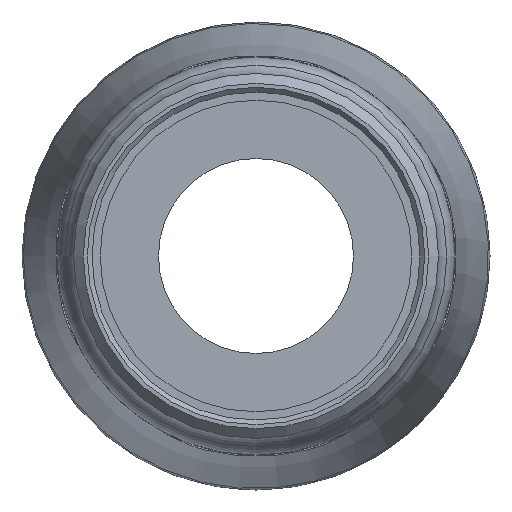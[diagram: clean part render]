
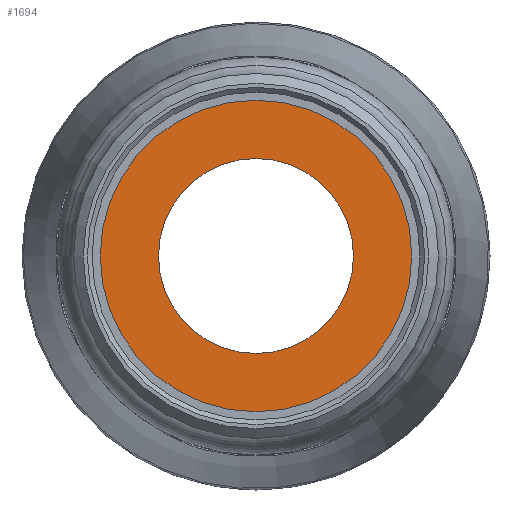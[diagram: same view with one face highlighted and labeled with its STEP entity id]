
A CAD part, left-side view. The second image highlights one B-rep face of the part: STEP entity #1694.
In plain terms, the highlighted planar face has unit normal (-1, 0, 0).
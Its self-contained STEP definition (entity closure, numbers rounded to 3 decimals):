
#40=FACE_BOUND('',#487,.T.);
#262=PLANE('',#1892);
#365=FACE_OUTER_BOUND('',#486,.T.);
#486=EDGE_LOOP('',(#1552));
#487=EDGE_LOOP('',(#1553));
#583=CIRCLE('',#1891,13.333);
#584=CIRCLE('',#1893,21.301);
#817=VERTEX_POINT('',#3823);
#818=VERTEX_POINT('',#3826);
#1063=EDGE_CURVE('',#817,#817,#583,.T.);
#1064=EDGE_CURVE('',#818,#818,#584,.T.);
#1552=ORIENTED_EDGE('',*,*,#1064,.F.);
#1553=ORIENTED_EDGE('',*,*,#1063,.T.);
#1694=ADVANCED_FACE('',(#365,#40),#262,.T.);
#1891=AXIS2_PLACEMENT_3D('',#3824,#2363,#2364);
#1892=AXIS2_PLACEMENT_3D('',#3825,#2365,#2366);
#1893=AXIS2_PLACEMENT_3D('',#3827,#2367,#2368);
#2363=DIRECTION('center_axis',(1.,0.,0.));
#2364=DIRECTION('ref_axis',(0.,0.,-1.));
#2365=DIRECTION('center_axis',(-1.,0.,0.));
#2366=DIRECTION('ref_axis',(0.,0.,1.));
#2367=DIRECTION('center_axis',(1.,0.,0.));
#2368=DIRECTION('ref_axis',(0.,0.,-1.));
#3823=CARTESIAN_POINT('',(25.03,13.333,0.));
#3824=CARTESIAN_POINT('Origin',(25.03,0.,0.));
#3825=CARTESIAN_POINT('Origin',(25.03,21.301,0.));
#3826=CARTESIAN_POINT('',(25.03,21.301,0.));
#3827=CARTESIAN_POINT('Origin',(25.03,0.,0.));
